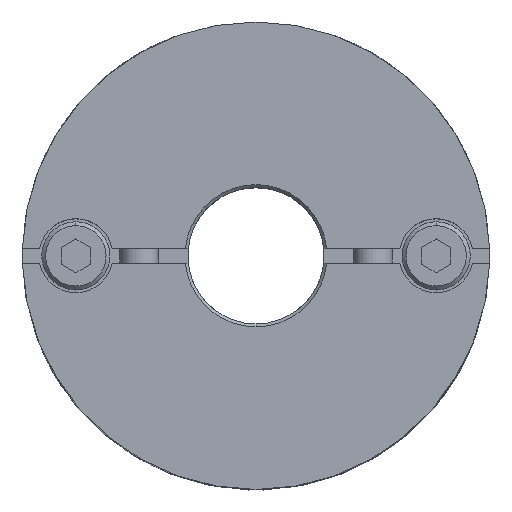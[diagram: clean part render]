
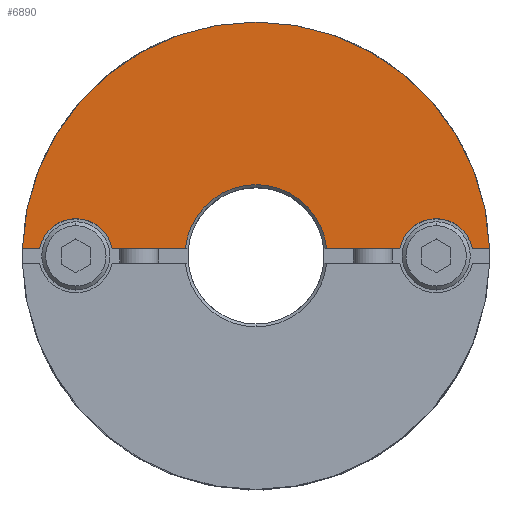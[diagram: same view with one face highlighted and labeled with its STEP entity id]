
A CAD part, top view. The second image highlights one B-rep face of the part: STEP entity #6890.
In plain terms, the highlighted planar face has unit normal (0, 0, 1).
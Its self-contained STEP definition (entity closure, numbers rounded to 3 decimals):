
#553=CARTESIAN_POINT('',(0.,7.3,19.3));
#554=VERTEX_POINT('',#553);
#563=CARTESIAN_POINT('',(-7.261,0.75,19.3));
#564=VERTEX_POINT('',#563);
#565=CARTESIAN_POINT('',(0.,0.,19.3));
#566=DIRECTION('',(0.0,0.0,1.0));
#567=DIRECTION('',(0.0,-1.0,0.0));
#568=AXIS2_PLACEMENT_3D('',#565,#566,#567);
#569=CIRCLE('',#568,7.3);
#570=EDGE_CURVE('',#554,#564,#569,.T.);
#742=CARTESIAN_POINT('',(0.,24.,19.3));
#743=VERTEX_POINT('',#742);
#827=CARTESIAN_POINT('',(-23.988,0.75,19.3));
#828=VERTEX_POINT('',#827);
#835=CARTESIAN_POINT('',(0.,0.,19.3));
#836=DIRECTION('',(0.0,0.0,-1.0));
#837=DIRECTION('',(0.0,1.0,0.0));
#838=AXIS2_PLACEMENT_3D('',#835,#836,#837);
#839=CIRCLE('',#838,24.0);
#840=EDGE_CURVE('',#828,#743,#839,.T.);
#1041=CARTESIAN_POINT('',(-18.5,3.8,19.3));
#1042=VERTEX_POINT('',#1041);
#1051=CARTESIAN_POINT('',(-22.225,0.75,19.3));
#1052=VERTEX_POINT('',#1051);
#1053=CARTESIAN_POINT('',(-18.5,0.,19.3));
#1054=DIRECTION('',(0.0,0.0,-1.0));
#1055=DIRECTION('',(0.0,1.0,0.0));
#1056=AXIS2_PLACEMENT_3D('',#1053,#1054,#1055);
#1057=CIRCLE('',#1056,3.8);
#1058=EDGE_CURVE('',#1052,#1042,#1057,.T.);
#1125=CARTESIAN_POINT('',(18.5,3.8,19.3));
#1126=VERTEX_POINT('',#1125);
#1135=CARTESIAN_POINT('',(14.775,0.75,19.3));
#1136=VERTEX_POINT('',#1135);
#1137=CARTESIAN_POINT('',(18.5,0.,19.3));
#1138=DIRECTION('',(0.0,0.0,-1.0));
#1139=DIRECTION('',(0.0,1.0,0.0));
#1140=AXIS2_PLACEMENT_3D('',#1137,#1138,#1139);
#1141=CIRCLE('',#1140,3.8);
#1142=EDGE_CURVE('',#1136,#1126,#1141,.T.);
#6566=CARTESIAN_POINT('',(22.225,0.75,19.3));
#6567=VERTEX_POINT('',#6566);
#6574=CARTESIAN_POINT('',(18.5,0.,19.3));
#6575=DIRECTION('',(0.0,0.0,-1.0));
#6576=DIRECTION('',(0.0,1.0,0.0));
#6577=AXIS2_PLACEMENT_3D('',#6574,#6575,#6576);
#6578=CIRCLE('',#6577,3.8);
#6579=EDGE_CURVE('',#1126,#6567,#6578,.T.);
#6632=CARTESIAN_POINT('',(-14.775,0.75,19.3));
#6633=VERTEX_POINT('',#6632);
#6640=CARTESIAN_POINT('',(-18.5,0.,19.3));
#6641=DIRECTION('',(0.0,0.0,-1.0));
#6642=DIRECTION('',(0.0,1.0,0.0));
#6643=AXIS2_PLACEMENT_3D('',#6640,#6641,#6642);
#6644=CIRCLE('',#6643,3.8);
#6645=EDGE_CURVE('',#1042,#6633,#6644,.T.);
#6664=CARTESIAN_POINT('',(23.988,0.75,19.3));
#6665=VERTEX_POINT('',#6664);
#6672=CARTESIAN_POINT('',(22.225,0.75,19.3));
#6673=DIRECTION('',(1.0,0.0,0.0));
#6674=VECTOR('',#6673,1.763);
#6675=LINE('',#6672,#6674);
#6676=EDGE_CURVE('',#6567,#6665,#6675,.T.);
#6687=CARTESIAN_POINT('',(7.261,0.75,19.3));
#6688=VERTEX_POINT('',#6687);
#6689=CARTESIAN_POINT('',(7.261,0.75,19.3));
#6690=DIRECTION('',(1.0,0.0,0.0));
#6691=VECTOR('',#6690,7.513);
#6692=LINE('',#6689,#6691);
#6693=EDGE_CURVE('',#6688,#1136,#6692,.T.);
#6849=CARTESIAN_POINT('',(0.,2.182,19.3));
#6850=DIRECTION('',(0.0,0.0,1.0));
#6851=DIRECTION('',(0.0,1.0,0.0));
#6852=AXIS2_PLACEMENT_3D('',#6849,#6850,#6851);
#6853=PLANE('',#6852);
#6854=ORIENTED_EDGE('',*,*,#1142,.T.);
#6855=ORIENTED_EDGE('',*,*,#6579,.T.);
#6856=ORIENTED_EDGE('',*,*,#6676,.T.);
#6857=CARTESIAN_POINT('',(0.,0.,19.3));
#6858=DIRECTION('',(0.0,0.0,-1.0));
#6859=DIRECTION('',(0.0,1.0,0.0));
#6860=AXIS2_PLACEMENT_3D('',#6857,#6858,#6859);
#6861=CIRCLE('',#6860,24.0);
#6862=EDGE_CURVE('',#743,#6665,#6861,.T.);
#6863=ORIENTED_EDGE('',*,*,#6862,.F.);
#6864=ORIENTED_EDGE('',*,*,#840,.F.);
#6865=CARTESIAN_POINT('',(-23.988,0.75,19.3));
#6866=DIRECTION('',(1.0,0.0,0.0));
#6867=VECTOR('',#6866,1.763);
#6868=LINE('',#6865,#6867);
#6869=EDGE_CURVE('',#828,#1052,#6868,.T.);
#6870=ORIENTED_EDGE('',*,*,#6869,.T.);
#6871=ORIENTED_EDGE('',*,*,#1058,.T.);
#6872=ORIENTED_EDGE('',*,*,#6645,.T.);
#6873=CARTESIAN_POINT('',(-14.775,0.75,19.3));
#6874=DIRECTION('',(1.0,0.0,0.0));
#6875=VECTOR('',#6874,7.513);
#6876=LINE('',#6873,#6875);
#6877=EDGE_CURVE('',#6633,#564,#6876,.T.);
#6878=ORIENTED_EDGE('',*,*,#6877,.T.);
#6879=ORIENTED_EDGE('',*,*,#570,.F.);
#6880=CARTESIAN_POINT('',(0.,0.,19.3));
#6881=DIRECTION('',(0.0,0.0,1.0));
#6882=DIRECTION('',(0.0,-1.0,0.0));
#6883=AXIS2_PLACEMENT_3D('',#6880,#6881,#6882);
#6884=CIRCLE('',#6883,7.3);
#6885=EDGE_CURVE('',#6688,#554,#6884,.T.);
#6886=ORIENTED_EDGE('',*,*,#6885,.F.);
#6887=ORIENTED_EDGE('',*,*,#6693,.T.);
#6888=EDGE_LOOP('',(#6854,#6855,#6856,#6863,#6864,#6870,#6871,#6872,#6878,#6879,#6886,#6887));
#6889=FACE_OUTER_BOUND('',#6888,.T.);
#6890=ADVANCED_FACE('',(#6889),#6853,.T.);
